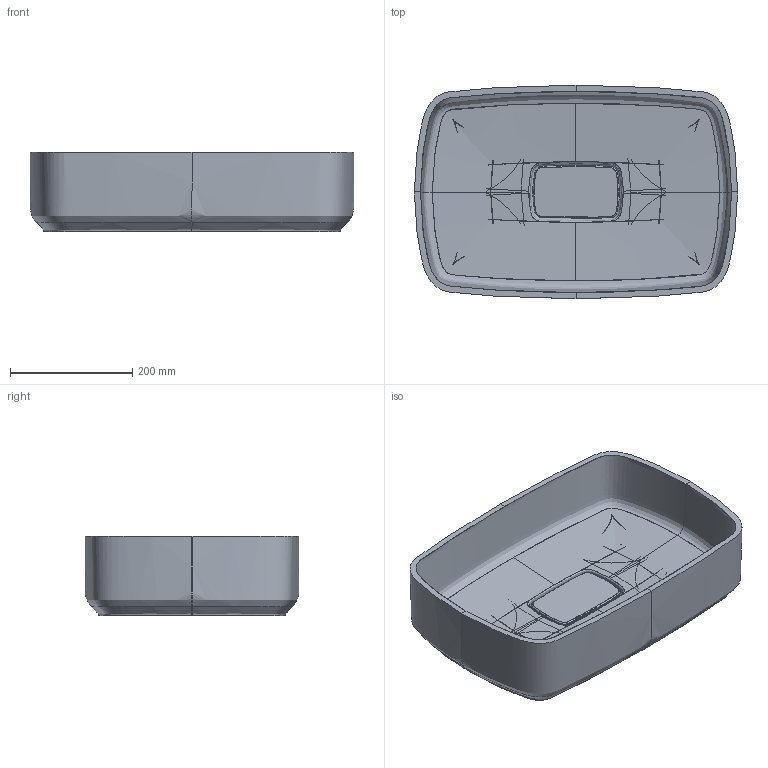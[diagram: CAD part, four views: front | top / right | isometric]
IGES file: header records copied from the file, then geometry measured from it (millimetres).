
Global section: file name: Y:\X DANIELE\SITO MOMA\SCHEDE TECNICHE + 2D + 3D\_FATTO\MOMA DESIGN_LAVABI DA APPOGGIO_NINFEA MARBLE 1\3D\MOMA DESIGN_LAVABI DA APPOGGIO_NINFEA MARBLE 1_3D.igs; native system: Rhinoceros ( Feb 23 2021 ); preprocessor: Trout Lake IGES 012 Feb 23 2021; date: 250402.072902; units: millimetre
Bounding box: 530 x 350 x 130 mm (x, y, z)
Surface area: 792538.1 mm2 (no closed solid volume)
Topology: 0 solids, 0 shells, 60 faces, 1429 edges, 1429 vertices
Faces by surface type: bspline 60
